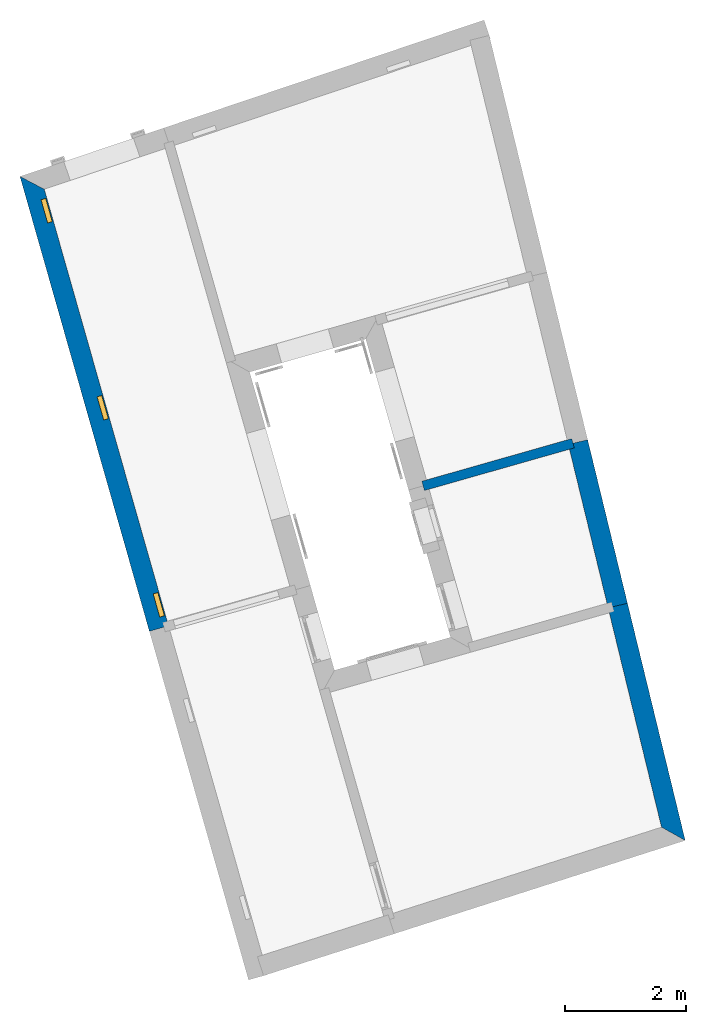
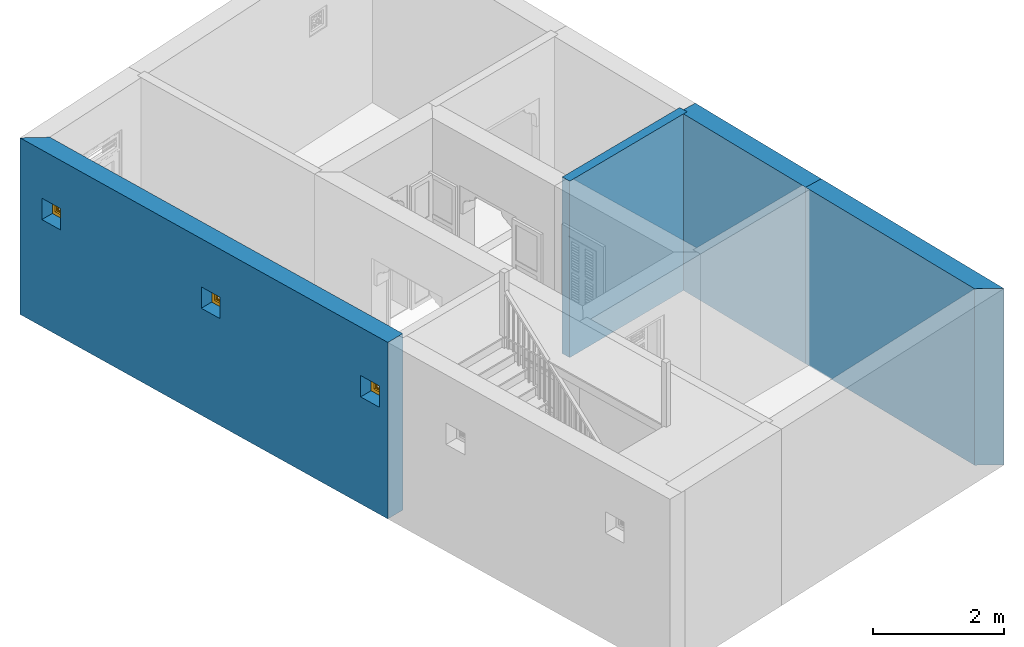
# One storey, part 9 of 14: 4 walls, 3 windows, 3 openings.
"""IFC4 building model written with IfcOpenShell, lengths in metres."""

from ifc_helpers import new_model, si_unit, frame, origin, origin_with_axes, place, context, subcontext, project, spatial, polyline, outline, extrude, faceted_brep, source, transform, mapped, material, layer, layer_set, layer_usage, type_object, type_shapes, element, fill, save


model = new_model("IFC4")

# Units and contexts
model_context = context("Model", 3, world=origin_with_axes())
body_context = subcontext(model_context, "Body", "Model", "MODEL_VIEW")
ifc_project = project(units=[si_unit("PLANEANGLEUNIT", "RADIAN"), si_unit("MASSUNIT", "GRAM", prefix="KILO"), si_unit("FORCEUNIT", "NEWTON", prefix="KILO"), si_unit("LENGTHUNIT", "METRE"), si_unit("AREAUNIT", "SQUARE_METRE"), si_unit("VOLUMEUNIT", "CUBIC_METRE")], contexts=[model_context, model_context])

# Site, building, storey
site_placement = place(None, origin_with_axes())
site = spatial("IfcSite", under=ifc_project, at=site_placement, Name="Site plot-3", CompositionType="ELEMENT")
building_placement = place(None, origin_with_axes())
building = spatial("IfcBuilding", under=site, at=building_placement, Name="Building plot-3", CompositionType="ELEMENT")
storey_placement = place(None, origin_with_axes())
storey = spatial("IfcBuildingStorey", under=building, at=storey_placement, Name="plot-3 0", CompositionType="ELEMENT", Elevation=0.0)

# Wall, openings, windows
ifc_material_1 = material(Name="Masonry")
ifc_layer_1 = layer(ifc_material_1, 0.33, ventilated=False)
ifc_layer_set_1 = layer_set([ifc_layer_1], Name="exterior_0.08_0.25")
ifc_layer_usage_1 = layer_usage(ifc_layer_set_1, "AXIS2", "POSITIVE", -0.25)
wall_type_1 = type_object("IfcWallType", Name="exterior_0.08_0.25", PredefinedType="SOLIDWALL", material=ifc_layer_set_1)
wall_1_placement = place(storey_placement, frame((6.86386195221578, 28.0452215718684, 0.0), z_axis=(0.0, 0.0, 1.0), x_axis=(0.273606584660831, -0.961841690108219, 0.0)))
wall_1 = element("IfcWall", 1, at=wall_1_placement, inside=storey, type_object=wall_type_1, material=ifc_layer_usage_1, Name="exterior", context=body_context, shape_type="SweptSolid", body=[
    extrude(outline(polyline([(0.0762475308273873, 0.0800000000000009), (-0.238273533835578, -0.249999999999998), (7.60958964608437, -0.249999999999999), (7.60958964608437, 0.0799999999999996), (0.0762475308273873, 0.0800000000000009)])), origin_with_axes(), (0.0, 0.0, 1.0), 3.3),
])
opening_1_placement = place(wall_1_placement, frame((0.229589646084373, 0.0, 2.0)))
opening_1 = element("IfcOpeningElement", 2, at=opening_1_placement, cuts=wall_1, Name="My Opening", ObjectType="Opening", context=body_context, shape_type="SweptSolid", body=[
    extrude(outline(polyline([(0.0, -0.27), (0.399999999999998, -0.27), (0.399999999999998, 1.1), (-2.4980018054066e-16, 1.1), (0.0, -0.27)])), origin_with_axes(), (0.0, 0.0, 1.0), 0.4),
])
opening_2_placement = place(wall_1_placement, frame((3.62958964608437, 0.0, 2.0)))
opening_2 = element("IfcOpeningElement", 3, at=opening_2_placement, cuts=wall_1, Name="My Opening", ObjectType="Opening", context=body_context, shape_type="SweptSolid", body=[
    extrude(outline(polyline([(0.0, -0.27), (0.400000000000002, -0.270000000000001), (0.400000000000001, 1.1), (-4.44089209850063e-16, 1.1), (0.0, -0.27)])), origin_with_axes(), (0.0, 0.0, 1.0), 0.4),
])
opening_3_placement = place(wall_1_placement, frame((7.02958964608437, 0.0, 2.0)))
opening_3 = element("IfcOpeningElement", 4, at=opening_3_placement, cuts=wall_1, Name="My Opening", ObjectType="Opening", context=body_context, shape_type="SweptSolid", body=[
    extrude(outline(polyline([(0.0, -0.27), (0.400000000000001, -0.269999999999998), (0.4, 1.1), (-8.88178419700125e-16, 1.1), (0.0, -0.27)])), origin_with_axes(), (0.0, 0.0, 1.0), 0.4),
])
window_type = type_object("IfcWindowType", Name="barred_window", PartitioningType="DOUBLE_PANEL_HORIZONTAL", PredefinedType="NOTDEFINED")
shared_shape = source(origin(), body_context, "Body", "Brep", [
    faceted_brep([(0.4, 0.25, 0.4), (0.0, 0.25, 0.4), (0.06, 0.25, 0.34), (0.34, 0.25, 0.34), (0.06, 0.33, 0.34), (0.34, 0.33, 0.34), (0.34, 0.25, 0.06), (0.4, 0.25, 0.0), (0.4, 0.33, 0.4), (0.0, 0.33, 0.4), (0.0, 0.25, 0.0), (0.06, 0.25, 0.06), (0.06, 0.33, 0.06), (0.34, 0.33, 0.06), (0.4, 0.33, 0.0), (0.0, 0.33, 0.0), (0.136152, 0.28, 0.08), (0.08, 0.28, 0.08), (0.06, 0.28, 0.06), (0.136152, 0.28, 0.06), (0.136152, 0.29, 0.08), (0.08, 0.29, 0.08), (0.06, 0.28, 0.136152), (0.08, 0.28, 0.136152), (0.06, 0.29, 0.06), (0.136152, 0.29, 0.06), (0.170294, 0.28, 0.08), (0.170294, 0.28, 0.06), (0.136152, 0.28, 0.136152), (0.136152, 0.29, 0.136152), (0.08, 0.29, 0.136152), (0.06, 0.29, 0.136152), (0.08, 0.28, 0.170294), (0.06, 0.28, 0.170294), (0.170294, 0.29, 0.06), (0.229706, 0.28, 0.08), (0.229706, 0.28, 0.06), (0.156152, 0.28, 0.094142), (0.156152, 0.28, 0.136152), (0.185858, 0.28, 0.123848), (0.185858, 0.29, 0.123848), (0.156152, 0.29, 0.094142), (0.156152, 0.29, 0.136152), (0.229706, 0.29, 0.08), (0.170294, 0.29, 0.08), (0.2, 0.28, 0.109706), (0.2, 0.29, 0.109706), (0.06, 0.29, 0.170294), (0.094142, 0.28, 0.156152), (0.08, 0.28, 0.229706), (0.06, 0.28, 0.229706), (0.229706, 0.29, 0.06), (0.263848, 0.28, 0.08), (0.263848, 0.28, 0.06), (0.156152, 0.28, 0.156152), (0.136152, 0.28, 0.156152), (0.173553, 0.28, 0.136152), (0.173553, 0.29, 0.136152), (0.156152, 0.29, 0.156152), (0.136152, 0.29, 0.156152), (0.094142, 0.29, 0.156152), (0.08, 0.29, 0.170294), (0.06, 0.29, 0.229706), (0.123848, 0.28, 0.185858), (0.109706, 0.28, 0.2), (0.08, 0.29, 0.229706), (0.08, 0.28, 0.263848), (0.06, 0.28, 0.263848), (0.263848, 0.29, 0.06), (0.2, 0.28, 0.13799), (0.214142, 0.28, 0.123848), (0.34, 0.28, 0.06), (0.32, 0.28, 0.08), (0.181838, 0.28, 0.156152), (0.136152, 0.28, 0.173553), (0.156152, 0.28, 0.181838), (0.181838, 0.29, 0.156152), (0.2, 0.29, 0.13799), (0.214142, 0.29, 0.123848), (0.136152, 0.29, 0.173553), (0.156152, 0.29, 0.181838), (0.243848, 0.28, 0.094142), (0.243848, 0.29, 0.094142), (0.263848, 0.28, 0.136152), (0.263848, 0.29, 0.08), (0.263848, 0.29, 0.136152), (0.32, 0.29, 0.08), (0.243848, 0.28, 0.136152), (0.243848, 0.29, 0.136152), (0.06, 0.29, 0.263848), (0.123848, 0.29, 0.185858), (0.13799, 0.28, 0.2), (0.123848, 0.28, 0.214142), (0.109706, 0.29, 0.2), (0.094142, 0.28, 0.243848), (0.08, 0.28, 0.32), (0.06, 0.28, 0.34), (0.34, 0.29, 0.06), (0.218162, 0.28, 0.156152), (0.226447, 0.28, 0.136152), (0.34, 0.28, 0.229706), (0.32, 0.28, 0.229706), (0.32, 0.28, 0.170294), (0.32, 0.28, 0.136152), (0.218162, 0.29, 0.156152), (0.226447, 0.29, 0.136152), (0.13799, 0.29, 0.2), (0.32, 0.29, 0.136152), (0.08, 0.29, 0.263848), (0.06, 0.29, 0.34), (0.136152, 0.28, 0.226447), (0.156152, 0.28, 0.218162), (0.094142, 0.29, 0.243848), (0.123848, 0.29, 0.214142), (0.136152, 0.28, 0.243848), (0.136152, 0.28, 0.263848), (0.08, 0.29, 0.32), (0.136152, 0.28, 0.34), (0.136152, 0.28, 0.32), (0.34, 0.29, 0.229706), (0.243848, 0.28, 0.156152), (0.263848, 0.28, 0.156152), (0.34, 0.28, 0.263848), (0.32, 0.28, 0.263848), (0.32, 0.29, 0.229706), (0.32, 0.29, 0.170294), (0.290294, 0.28, 0.2), (0.276152, 0.28, 0.185858), (0.305858, 0.28, 0.156152), (0.243848, 0.29, 0.156152), (0.263848, 0.29, 0.156152), (0.305858, 0.29, 0.156152), (0.276152, 0.29, 0.185858), (0.290294, 0.29, 0.2), (0.136152, 0.29, 0.34), (0.136152, 0.29, 0.226447), (0.156152, 0.29, 0.218162), (0.156152, 0.28, 0.243848), (0.136152, 0.29, 0.243848), (0.156152, 0.28, 0.263848), (0.136152, 0.29, 0.263848), (0.136152, 0.29, 0.32), (0.170294, 0.28, 0.32), (0.170294, 0.28, 0.34), (0.34, 0.29, 0.263848), (0.243848, 0.28, 0.181838), (0.263848, 0.28, 0.173553), (0.34, 0.28, 0.34), (0.32, 0.28, 0.32), (0.305858, 0.28, 0.243848), (0.276152, 0.28, 0.214142), (0.26201, 0.28, 0.2), (0.243848, 0.29, 0.181838), (0.263848, 0.29, 0.173553), (0.26201, 0.29, 0.2), (0.276152, 0.29, 0.214142), (0.32, 0.29, 0.263848), (0.170294, 0.29, 0.34), (0.156152, 0.29, 0.243848), (0.173553, 0.28, 0.263848), (0.181838, 0.28, 0.243848), (0.156152, 0.28, 0.305858), (0.229706, 0.28, 0.32), (0.229706, 0.28, 0.34), (0.34, 0.29, 0.34), (0.263848, 0.28, 0.34), (0.263848, 0.28, 0.32), (0.32, 0.29, 0.32), (0.263848, 0.28, 0.263848), (0.263848, 0.28, 0.243848), (0.305858, 0.29, 0.243848), (0.263848, 0.28, 0.226447), (0.243848, 0.28, 0.218162), (0.243848, 0.29, 0.218162), (0.263848, 0.29, 0.226447), (0.156152, 0.29, 0.263848), (0.170294, 0.29, 0.32), (0.229706, 0.29, 0.34), (0.181838, 0.29, 0.243848), (0.173553, 0.29, 0.263848), (0.185858, 0.28, 0.276152), (0.2, 0.28, 0.26201), (0.156152, 0.29, 0.305858), (0.229706, 0.29, 0.32), (0.263848, 0.29, 0.34), (0.263848, 0.29, 0.32), (0.263848, 0.29, 0.263848), (0.243848, 0.28, 0.243848), (0.243848, 0.28, 0.263848), (0.263848, 0.29, 0.243848), (0.243848, 0.29, 0.243848), (0.2, 0.29, 0.26201), (0.185858, 0.29, 0.276152), (0.214142, 0.28, 0.276152), (0.218162, 0.28, 0.243848), (0.226447, 0.28, 0.263848), (0.243848, 0.28, 0.305858), (0.2, 0.28, 0.290294), (0.2, 0.29, 0.290294), (0.243848, 0.29, 0.263848), (0.218162, 0.29, 0.243848), (0.214142, 0.29, 0.276152), (0.226447, 0.29, 0.263848), (0.243848, 0.29, 0.305858)], [[[0, 1, 2, 3]], [[3, 2, 4, 5]], [[3, 6, 7, 0]], [[1, 0, 8, 9]], [[1, 10, 11, 2]], [[2, 11, 12, 4]], [[9, 8, 5, 4]], [[6, 3, 5, 13]], [[6, 11, 10, 7]], [[0, 7, 14, 8]], [[10, 1, 9, 15]], [[11, 6, 13, 12]], [[4, 12, 15, 9]], [[8, 14, 13, 5]], [[7, 10, 15, 14]], [[12, 13, 14, 15]], [[16, 17, 18, 19]], [[17, 16, 20, 21]], [[22, 18, 17, 23]], [[19, 18, 24, 25]], [[26, 16, 19, 27]], [[16, 28, 29, 20]], [[21, 20, 25, 24]], [[23, 17, 21, 30]], [[18, 22, 31, 24]], [[23, 32, 33, 22]], [[27, 19, 25, 34]], [[35, 26, 27, 36]], [[28, 16, 37, 38]], [[37, 39, 40, 41]], [[38, 37, 41, 42]], [[20, 29, 42, 41]], [[26, 35, 43, 44]], [[45, 26, 44, 46]], [[20, 44, 34, 25]], [[28, 23, 30, 29]], [[24, 31, 30, 21]], [[22, 33, 47, 31]], [[48, 32, 23]], [[32, 49, 50, 33]], [[36, 27, 34, 51]], [[39, 37, 26, 45]], [[52, 35, 36, 53]], [[38, 54, 55, 28]], [[39, 56, 57, 40]], [[41, 40, 46, 44]], [[56, 38, 42, 57]], [[58, 42, 29, 59]], [[35, 45, 46, 43]], [[44, 43, 51, 34]], [[23, 28, 55, 48]], [[29, 30, 60, 59]], [[61, 30, 31, 47]], [[33, 50, 62, 47]], [[48, 63, 64, 32]], [[49, 32, 61, 65]], [[49, 66, 67, 50]], [[53, 36, 51, 68]], [[69, 39, 45, 70]], [[53, 71, 72, 52]], [[73, 54, 38, 56]], [[74, 55, 54, 75]], [[56, 39, 69, 73]], [[40, 57, 76, 77]], [[40, 77, 78, 46]], [[58, 76, 57, 42]], [[59, 79, 80, 58]], [[45, 35, 81, 70]], [[43, 46, 78, 82]], [[83, 52, 84, 85]], [[82, 84, 43]], [[52, 72, 86, 84]], [[43, 84, 68, 51]], [[44, 20, 41]], [[70, 81, 82, 78]], [[81, 87, 88, 82]], [[48, 55, 59, 60]], [[61, 60, 30]], [[65, 61, 47, 62]], [[50, 67, 89, 62]], [[63, 48, 60, 90]], [[63, 91, 92, 64]], [[32, 64, 93, 61]], [[64, 49, 65, 93]], [[94, 66, 49]], [[66, 95, 96, 67]], [[71, 53, 68, 97]], [[98, 69, 70, 99]], [[81, 52, 83, 87]], [[72, 71, 100]], [[100, 101, 102]], [[103, 72, 100]], [[100, 102, 103]], [[54, 73, 76, 58]], [[55, 74, 79, 59]], [[75, 54, 58, 80]], [[63, 74, 75, 91]], [[73, 69, 77, 76]], [[77, 104, 105, 78]], [[79, 90, 106, 80]], [[84, 82, 88, 85]], [[103, 83, 85, 107]], [[72, 103, 107, 86]], [[97, 68, 84, 86]], [[99, 70, 78, 105]], [[87, 99, 105, 88]], [[90, 60, 61, 93]], [[108, 65, 62, 89]], [[67, 96, 109, 89]], [[74, 63, 90, 79]], [[110, 92, 91, 111]], [[49, 64, 92, 94]], [[93, 65, 112, 113]], [[94, 114, 115, 66]], [[95, 66, 108, 116]], [[117, 96, 95, 118]], [[100, 71, 97, 119]], [[69, 98, 104, 77]], [[99, 87, 120, 98]], [[87, 83, 121, 120]], [[101, 100, 122, 123]], [[102, 101, 124, 125]], [[121, 83, 103]], [[103, 102, 126]], [[126, 127, 128]], [[128, 121, 103]], [[103, 126, 128]], [[91, 75, 80, 106]], [[88, 105, 104, 129]], [[106, 90, 93, 113]], [[85, 88, 129, 130]], [[107, 85, 130]], [[131, 132, 133]], [[107, 130, 131]], [[133, 125, 107]], [[107, 131, 133]], [[124, 119, 97]], [[97, 86, 107]], [[107, 125, 124]], [[97, 107, 124]], [[108, 112, 65]], [[116, 108, 89, 109]], [[96, 117, 134, 109]], [[92, 110, 135, 113]], [[111, 91, 106, 136]], [[114, 110, 111, 137]], [[94, 92, 113, 112]], [[114, 94, 112, 138]], [[114, 137, 139, 115]], [[66, 115, 140, 108]], [[118, 95, 116, 141]], [[118, 142, 143, 117]], [[122, 100, 119, 144]], [[98, 120, 129, 104]], [[145, 120, 121, 146]], [[122, 147, 148, 123]], [[123, 149, 101]], [[101, 126, 133, 124]], [[126, 102, 125, 133]], [[127, 126, 150, 151]], [[128, 127, 132, 131]], [[121, 128, 131, 130]], [[113, 135, 136, 106]], [[129, 152, 153, 130]], [[133, 132, 154, 155]], [[119, 124, 156, 144]], [[138, 112, 108, 140]], [[109, 134, 141, 116]], [[117, 143, 157, 134]], [[110, 114, 138, 135]], [[137, 111, 136, 158]], [[159, 139, 137, 160]], [[118, 115, 139, 161]], [[115, 118, 141, 140]], [[161, 142, 118]], [[162, 163, 143, 142]], [[147, 122, 144, 164]], [[120, 145, 152, 129]], [[146, 121, 130, 153]], [[146, 127, 151, 145]], [[147, 165, 166, 148]], [[123, 148, 167, 156]], [[149, 123, 168, 169]], [[149, 150, 126, 101]], [[155, 170, 124, 133]], [[151, 150, 171, 172]], [[127, 146, 153, 132]], [[135, 138, 158, 136]], [[132, 153, 152, 154]], [[155, 154, 173, 174]], [[170, 156, 124]], [[164, 144, 156, 167]], [[158, 138, 140, 175]], [[176, 141, 134, 157]], [[143, 163, 177, 157]], [[160, 137, 158, 178]], [[139, 159, 179, 175]], [[180, 159, 160, 181]], [[161, 139, 175, 182]], [[140, 141, 182, 175]], [[166, 165, 163, 162]], [[162, 142, 176, 183]], [[165, 147, 164, 184]], [[145, 151, 154, 152]], [[148, 166, 185, 167]], [[156, 186, 168, 123]], [[187, 169, 168, 188]], [[149, 169, 189, 170]], [[150, 149, 170, 155]], [[171, 150, 155, 174]], [[171, 169, 187, 172]], [[151, 172, 173, 154]], [[189, 174, 173, 190]], [[156, 170, 189, 186]], [[184, 164, 167, 185]], [[175, 179, 178, 158]], [[176, 182, 141]], [[177, 183, 176, 157]], [[163, 165, 184, 177]], [[181, 160, 178, 191]], [[159, 180, 192, 179]], [[180, 161, 182, 192]], [[193, 181, 194, 195]], [[196, 162, 197, 193]], [[180, 197, 142, 161]], [[197, 180, 181, 193]], [[142, 197, 198, 176]], [[162, 196, 166]], [[35, 52, 81]], [[197, 162, 183, 198]], [[185, 166, 168, 186]], [[196, 188, 168, 166]], [[187, 188, 195, 194]], [[169, 171, 174, 189]], [[172, 187, 190, 173]], [[189, 190, 199, 186]], [[184, 185, 183, 177]], [[179, 192, 191, 178]], [[176, 198, 192, 182]], [[194, 181, 191, 200]], [[191, 192, 198, 201]], [[26, 37, 16]], [[193, 195, 202, 201]], [[196, 193, 201, 203]], [[191, 201, 202, 200]], [[183, 203, 201, 198]], [[188, 196, 203, 199]], [[203, 183, 185]], [[199, 203, 185, 186]], [[195, 188, 199, 202]], [[187, 194, 200, 190]], [[199, 190, 200, 202]]]),
])
type_shapes(window_type, [shared_shape])
window_1_placement = place(storey_placement, frame((6.66698193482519, 27.7505189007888, 2.0), z_axis=(0.0, 0.0, 1.0), x_axis=(0.109442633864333, -0.384736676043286, 0.0)))
window_1 = element("IfcWindow", 5, at=window_1_placement, inside=storey, type_object=window_type, Name="circulation street window", OverallHeight=0.4, OverallWidth=0.4, context=body_context, shape_type="MappedRepresentation", body=[
    mapped(shared_shape, transform((0.0, 0.0, 0.0), scale=1.0)),
])
fill(opening_1, window_1)
window_2_placement = place(storey_placement, frame((7.59724432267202, 24.4802571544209, 2.0), z_axis=(0.0, 0.0, 1.0), x_axis=(0.109442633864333, -0.384736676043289, 0.0)))
window_2 = element("IfcWindow", 6, at=window_2_placement, inside=storey, type_object=window_type, Name="circulation street window", OverallHeight=0.4, OverallWidth=0.4, context=body_context, shape_type="MappedRepresentation", body=[
    mapped(shared_shape, transform((0.0, 0.0, 0.0), scale=1.0)),
])
fill(opening_2, window_2)
window_3_placement = place(storey_placement, frame((8.52750671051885, 21.2099954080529, 2.0), z_axis=(0.0, 0.0, 1.0), x_axis=(0.109442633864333, -0.384736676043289, 0.0)))
window_3 = element("IfcWindow", 7, at=window_3_placement, inside=storey, type_object=window_type, Name="circulation street window", OverallHeight=0.4, OverallWidth=0.4, context=body_context, shape_type="MappedRepresentation", body=[
    mapped(shared_shape, transform((0.0, 0.0, 0.0), scale=1.0)),
])
fill(opening_3, window_3)

# Walls
ifc_material_2 = material(Name="Masonry")
ifc_layer_2 = layer(ifc_material_2, 0.33, ventilated=False)
ifc_layer_set_2 = layer_set([ifc_layer_2], Name="party_0.08_0.25")
ifc_layer_usage_2 = layer_usage(ifc_layer_set_2, "AXIS2", "POSITIVE", -0.25)
wall_type_2 = type_object("IfcWallType", Name="party_0.08_0.25", PredefinedType="SOLIDWALL", material=ifc_layer_set_2)
wall_2_placement = place(storey_placement, frame((17.2995256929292, 17.3531854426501, 0.0), z_axis=(0.0, 0.0, 1.0), x_axis=(-0.236608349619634, 0.971605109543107, 0.0)))
element("IfcWall", 8, at=wall_2_placement, inside=storey, type_object=wall_type_2, material=ifc_layer_usage_2, Name="party", context=body_context, shape_type="SweptSolid", body=[
    extrude(outline(polyline([(0.0744768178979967, 0.0799999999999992), (-0.232740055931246, -0.250000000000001), (3.81947382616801, -0.25), (3.81947382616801, 0.0799999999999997), (0.0744768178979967, 0.0799999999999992)])), origin_with_axes(), (0.0, 0.0, 1.0), 3.3),
])
wall_3_placement = place(storey_placement, frame((16.3958062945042, 21.0642057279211, 0.0), z_axis=(0.0, 0.0, 1.0), x_axis=(-0.236608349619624, 0.97160510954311, 0.0)))
element("IfcWall", 9, at=wall_3_placement, inside=storey, type_object=wall_type_2, material=ifc_layer_usage_2, Name="party", context=body_context, shape_type="SweptSolid", body=[
    extrude(outline(polyline([(-2.05567534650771e-15, 0.0800000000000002), (1.79166492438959e-15, -0.249999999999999), (2.79305572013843, -0.250000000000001), (2.79305572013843, 0.0799999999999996), (-2.05567534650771e-15, 0.0800000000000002)])), origin_with_axes(), (0.0, 0.0, 1.0), 3.3),
])
ifc_material_3 = material(Name="Masonry")
ifc_layer_3 = layer(ifc_material_3, 0.16, ventilated=False)
ifc_layer_set_3 = layer_set([ifc_layer_3], Name="interior_0.08_0.08")
ifc_layer_usage_3 = layer_usage(ifc_layer_set_3, "AXIS2", "POSITIVE", -0.08)
wall_type_3 = type_object("IfcWallType", Name="interior_0.08_0.08", PredefinedType="SOLIDWALL", material=ifc_layer_set_3)
wall_4_placement = place(storey_placement, frame((13.2483149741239, 23.0706030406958, 0.0), z_axis=(0.0, 0.0, 1.0), x_axis=(0.961841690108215, 0.273606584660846, 0.0)))
element("IfcWall", 10, at=wall_4_placement, inside=storey, type_object=wall_type_3, material=ifc_layer_usage_3, Name="interior", context=body_context, shape_type="SweptSolid", body=[
    extrude(outline(polyline([(1.82534271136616e-16, 0.0800000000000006), (-1.72737096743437e-16, -0.0800000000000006), (2.58528096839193, -0.0800000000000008), (2.58528096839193, 0.0800000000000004), (1.82534271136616e-16, 0.0800000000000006)])), origin_with_axes(), (0.0, 0.0, 1.0), 3.3),
])

save(model, "model.ifc")
